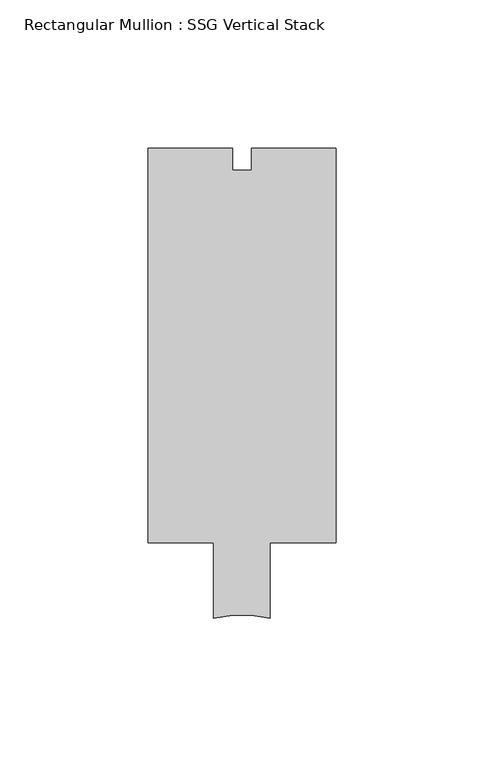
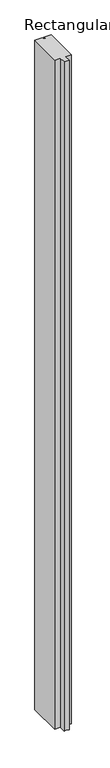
"""IFC4 building model written with IfcOpenShell, lengths in millimetres: member geometry, Rectangular Mullion : SSG Vertical Stack."""

from ifc_helpers import new_model, si_unit, point, frame, frame_2d, origin, place, context, project, spatial, polyline, circle_curve, trimmed, segment, composite_curve, outline, extrude, source, transform, mapped, element, save


def rectangular_mullion_ssg_vertical_stack_b657639e(model_context):
    return source(origin(), model_context, "Body", "SweptSolid", [
        extrude(outline(composite_curve([segment(polyline([(-3.175, 114.3), (-3.175, 106.9085472), (3.175, 106.9085472), (3.175, 114.3), (31.7705663, 114.3), (31.7705663, -18.933673), (9.534694, -18.933673), (9.534694, -44.4572901)]), True, "CONTINUOUS"), segment(trimmed(circle_curve(frame_2d((-2e-07, -81.9595205)), 38.6953185), [point((9.534694, -44.4572901))], [point((-9.5153094, -44.4523669))], True, "CARTESIAN"), True, "CONTINUOUS"), segment(polyline([(-9.5153094, -44.4523669), (-9.5153094, -18.9488461), (-31.75, -18.9488461), (-31.75, 114.3), (-3.175, 114.3)]), True, "CONTINUOUS")], self_intersect=False)), frame((0.0, 0.0, -2743.2), z_axis=(0.0, 0.0, 1.0), x_axis=(1.0, 0.0, 0.0)), (0.0, 0.0, 1.0), 2743.2),
    ])


if __name__ == "__main__":
    model = new_model("IFC4")
    model_context = context("Model", 3, world=origin())
    ifc_project = project(units=[si_unit("LENGTHUNIT", "METRE", prefix="MILLI")], contexts=[model_context])
    site = spatial("IfcSite", under=ifc_project)
    building = spatial("IfcBuilding", under=site)
    placement = place(None, origin())
    rectangular_mullion_ssg_vertical_stack_shape = rectangular_mullion_ssg_vertical_stack_b657639e(model_context)
    element("IfcMember", 1, ObjectType="Rectangular Mullion : SSG Vertical Stack", at=placement, inside=building, context=model_context, shape_type="MappedRepresentation", body=[
        mapped(rectangular_mullion_ssg_vertical_stack_shape, transform((0.0, 0.0, 0.0), x_axis=(1.0, 0.0, 0.0), y_axis=(0.0, 1.0, 0.0), z_axis=(0.0, 0.0, 1.0))),
    ])
    save(model, "model.ifc")
